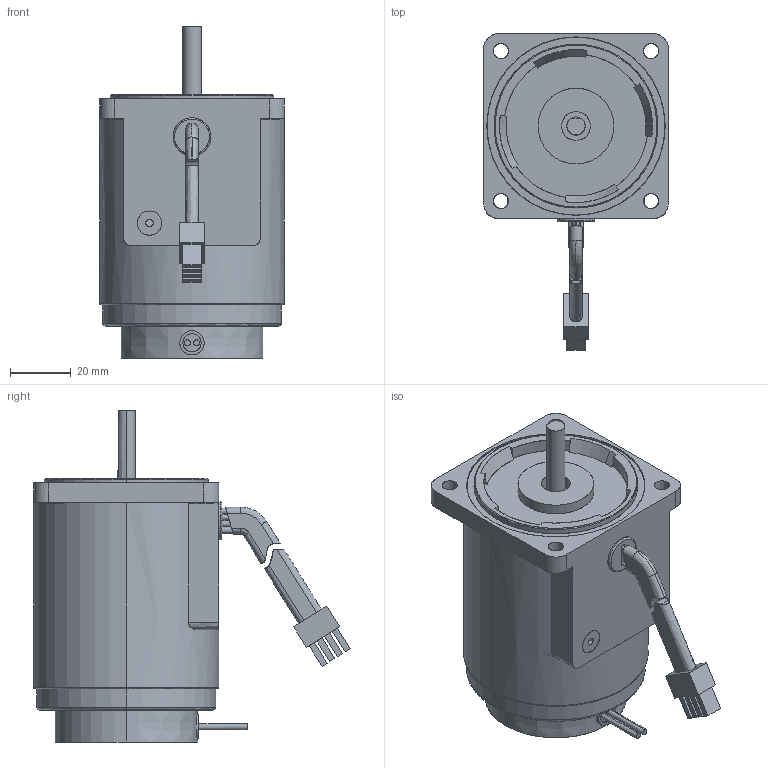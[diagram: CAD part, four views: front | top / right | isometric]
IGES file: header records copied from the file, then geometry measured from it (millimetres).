
Start section: SolidWorks IGES file using analytic representation for surfaces
Global section: file name: \\Lg-nas\楷备俺惯夯何\2014-2015斥档\002. 档搁\09. 2015 权其捞瘤 档搁\7. SPEED INDUCTION\60\6W\(7-1) 6SDD∴-6.IGS; native system: SolidWorks 2007; preprocessor: SolidWorks 2007; author: user; date: 150710.144004; units: millimetre
Bounding box: 61 x 104.4 x 109.5 mm (x, y, z)
Surface area: 48180.1 mm2 (no closed solid volume)
Topology: 0 solids, 0 shells, 196 faces, 3939 edges, 3939 vertices
Faces by surface type: bspline 107, revolution 89
